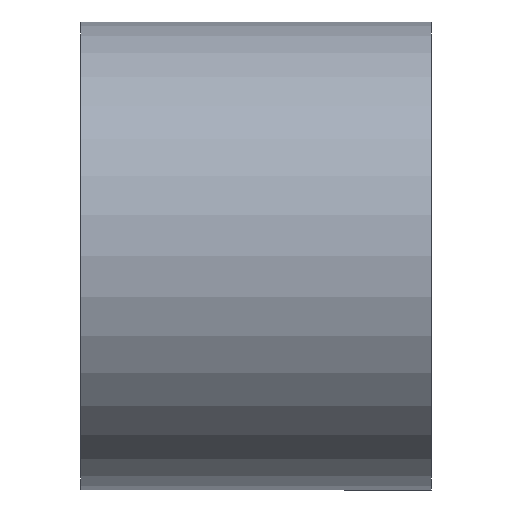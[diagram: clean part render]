
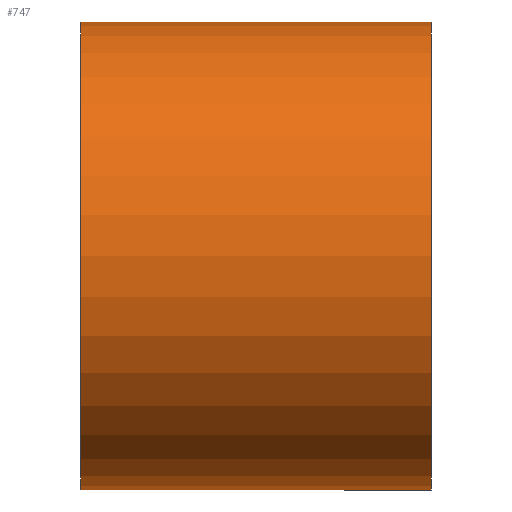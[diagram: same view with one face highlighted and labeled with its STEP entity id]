
A CAD part, front view. The second image highlights one B-rep face of the part: STEP entity #747.
In plain terms, the highlighted cylindrical face has radius 50 mm (diameter 100 mm), a partial arc.
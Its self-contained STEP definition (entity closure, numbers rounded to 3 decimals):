
#34 = LINE ( 'NONE', #357, #83 ) ;
#54 = VERTEX_POINT ( 'NONE', #326 ) ;
#83 = VECTOR ( 'NONE', #573, 1000. ) ;
#114 = DIRECTION ( 'NONE',  ( 0., 0., 1. ) ) ;
#129 = FACE_OUTER_BOUND ( 'NONE', #668, .T. ) ;
#150 = VECTOR ( 'NONE', #504, 1000. ) ;
#151 = VERTEX_POINT ( 'NONE', #408 ) ;
#168 = AXIS2_PLACEMENT_3D ( 'NONE', #884, #273, #202 ) ;
#176 = DIRECTION ( 'NONE',  ( 0., 0., 1. ) ) ;
#202 = DIRECTION ( 'NONE',  ( 0., 0., 1. ) ) ;
#224 = EDGE_CURVE ( 'NONE', #304, #54, #779, .T. ) ;
#256 = EDGE_CURVE ( 'NONE', #737, #151, #34, .T. ) ;
#273 = DIRECTION ( 'NONE',  ( -1., 0., 0. ) ) ;
#304 = VERTEX_POINT ( 'NONE', #460 ) ;
#326 = CARTESIAN_POINT ( 'NONE',  ( -37.5, 0., 50. ) ) ;
#337 = CIRCLE ( 'NONE', #382, 50. ) ;
#357 = CARTESIAN_POINT ( 'NONE',  ( 0., 0., -50. ) ) ;
#382 = AXIS2_PLACEMENT_3D ( 'NONE', #383, #865, #114 ) ;
#383 = CARTESIAN_POINT ( 'NONE',  ( 37.5, 0., 0. ) ) ;
#408 = CARTESIAN_POINT ( 'NONE',  ( -37.5, 0., -50. ) ) ;
#409 = ORIENTED_EDGE ( 'NONE', *, *, #696, .T. ) ;
#419 = CYLINDRICAL_SURFACE ( 'NONE', #168, 50. ) ;
#421 = EDGE_CURVE ( 'NONE', #151, #54, #455, .T. ) ;
#455 = CIRCLE ( 'NONE', #874, 50. ) ;
#460 = CARTESIAN_POINT ( 'NONE',  ( 37.5, 0., 50. ) ) ;
#488 = CARTESIAN_POINT ( 'NONE',  ( 37.5, 0., -50. ) ) ;
#504 = DIRECTION ( 'NONE',  ( -1., 0., 0. ) ) ;
#523 = DIRECTION ( 'NONE',  ( -1., 0., 0. ) ) ;
#568 = CARTESIAN_POINT ( 'NONE',  ( 0., 0., 50. ) ) ;
#573 = DIRECTION ( 'NONE',  ( -1., 0., 0. ) ) ;
#584 = CARTESIAN_POINT ( 'NONE',  ( -37.5, 0., 0. ) ) ;
#624 = ORIENTED_EDGE ( 'NONE', *, *, #421, .F. ) ;
#651 = ORIENTED_EDGE ( 'NONE', *, *, #256, .F. ) ;
#668 = EDGE_LOOP ( 'NONE', ( #651, #409, #732, #624 ) ) ;
#696 = EDGE_CURVE ( 'NONE', #737, #304, #337, .T. ) ;
#732 = ORIENTED_EDGE ( 'NONE', *, *, #224, .T. ) ;
#737 = VERTEX_POINT ( 'NONE', #488 ) ;
#747 = ADVANCED_FACE ( 'NONE', ( #129 ), #419, .T. ) ;
#779 = LINE ( 'NONE', #568, #150 ) ;
#865 = DIRECTION ( 'NONE',  ( -1., 0., 0. ) ) ;
#874 = AXIS2_PLACEMENT_3D ( 'NONE', #584, #523, #176 ) ;
#884 = CARTESIAN_POINT ( 'NONE',  ( 0., 0., 0. ) ) ;
